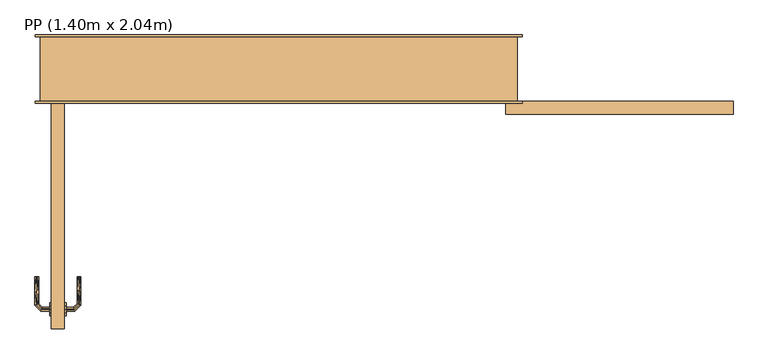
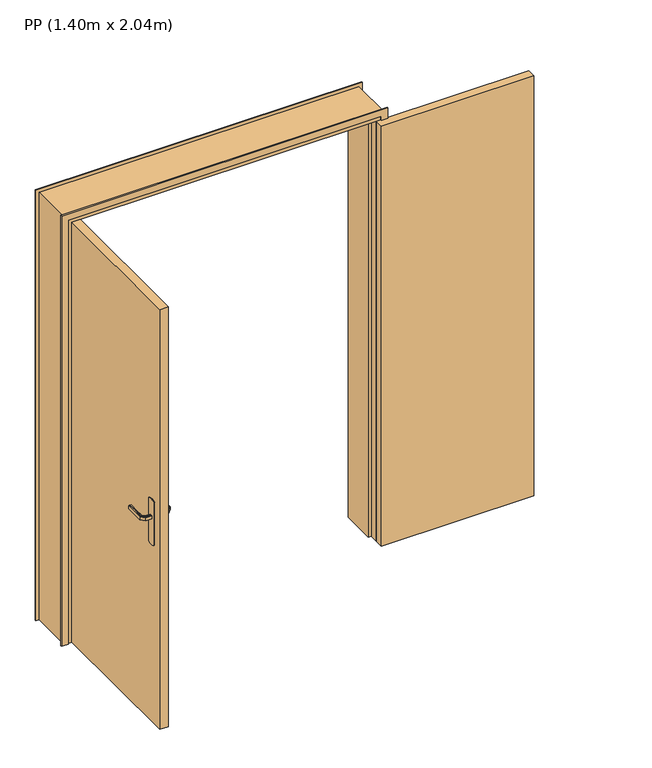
"""IFC4 building model written with IfcOpenShell, lengths in millimetres: door geometry, PP (1.40m x 2.04m)."""

import ifcopenshell
import ifcopenshell.guid

model = None  # the IFC model being written
_history = None  # IfcOwnerHistory: only IFC2X3 demands one
_inside = {}  # id of a spatial element -> (the spatial element, [elements in it])
_under = {}  # id of a project, library or spatial element -> (it, [spatial elements below it])
_declared = {}  # id of a project -> (the project, [libraries it declares])
_typed = {}  # id of a type object -> (the type object, [elements of that type])
_made_of = {}  # id of a material, layer set ... -> (it, [elements and type objects made of it])


def new_model(schema):
    """Start an empty IFC model of exactly this schema.

    Asked for "IFC4X3", IfcOpenShell would pick the latest addendum, in which some entities
    have other attributes; the version numbers below select the first issue.
    IFC2X3 requires an IfcOwnerHistory on every rooted entity: one is made here for all.
    """
    global model, _history
    if schema == "IFC4X3":
        model = ifcopenshell.file(schema_version=(4, 3, 0, 0))
    else:
        model = ifcopenshell.file(schema=schema)
    _inside.clear()
    _under.clear()
    _declared.clear()
    _typed.clear()
    _made_of.clear()
    _history = None
    if model.schema == "IFC2X3":
        org = make("IfcOrganization", Name="unknown")
        user = make(
            "IfcPersonAndOrganization",
            ThePerson=make("IfcPerson", FamilyName="unknown"),
            TheOrganization=org,
        )
        app = make(
            "IfcApplication",
            ApplicationDeveloper=org,
            Version="unknown",
            ApplicationFullName="unknown",
            ApplicationIdentifier="unknown",
        )
        _history = make(
            "IfcOwnerHistory",
            OwningUser=user,
            OwningApplication=app,
            ChangeAction="ADDED",
            CreationDate=0,
        )
    return model


def make(cls, **values):
    """One entity of the class cls with the attributes given. An attribute that is None is left unset."""
    return model.create_entity(
        cls, **{name: value for name, value in values.items() if value is not None}
    )


def rooted(cls, **values):
    """An entity with a GlobalId (a new one), such as an element, a storey or a relation."""
    return make(cls, GlobalId=ifcopenshell.guid.new(), OwnerHistory=_history, **values)


def si_unit(unit_type, name, prefix=None):
    """IfcSIUnit, for example si_unit("LENGTHUNIT", "METRE", prefix="MILLI")."""
    return make("IfcSIUnit", UnitType=unit_type, Prefix=prefix, Name=name)


def assignment(units):
    """IfcUnitAssignment: the units of a project."""
    return None if units is None else make("IfcUnitAssignment", Units=units)


def point(xyz):
    """IfcCartesianPoint."""
    return None if xyz is None else make("IfcCartesianPoint", Coordinates=xyz)


def direction(xyz):
    """IfcDirection."""
    return None if xyz is None else make("IfcDirection", DirectionRatios=xyz)


def frame(location, z_axis=None, x_axis=None):
    """IfcAxis2Placement3D, a coordinate frame: its origin and axes. An axis left out is left unset."""
    return make(
        "IfcAxis2Placement3D",
        Location=point(location),
        Axis=direction(z_axis),
        RefDirection=direction(x_axis),
    )


def origin():
    """The frame at (0, 0, 0) with its axes left unset."""
    return frame((0.0, 0.0, 0.0))


def origin_with_axes():
    """The frame at (0, 0, 0) with the z axis (0, 0, 1) and the x axis (1, 0, 0) written out."""
    return frame((0.0, 0.0, 0.0), z_axis=(0.0, 0.0, 1.0), x_axis=(1.0, 0.0, 0.0))


def place(relative_to, where):
    """IfcLocalPlacement: puts the frame where relative to a parent placement (None: the world)."""
    return make(
        "IfcLocalPlacement", PlacementRelTo=relative_to, RelativePlacement=where
    )


def context(
    kind, dimensions, precision=None, world=None, true_north=None, identifier=None
):
    """IfcGeometricRepresentationContext, for example the 3D "Model" context."""
    return make(
        "IfcGeometricRepresentationContext",
        ContextIdentifier=identifier,
        ContextType=kind,
        CoordinateSpaceDimension=dimensions,
        Precision=precision,
        WorldCoordinateSystem=world,
        TrueNorth=true_north,
    )


def project(units=None, contexts=None):
    """IfcProject with its units and contexts."""
    return rooted(
        "IfcProject",
        Name="project",
        RepresentationContexts=contexts,
        UnitsInContext=assignment(units),
    )


def spatial(cls, under=None, at=None, **own):
    """A site, building, storey or space (cls), placed at a placement, below another one or the project."""
    s = rooted(cls, ObjectPlacement=at, **own)
    if under is not None:
        _under.setdefault(under.id(), (under, []))[1].append(s)
    return s


def polyline(points):
    """IfcPolyline through the points."""
    return make("IfcPolyline", Points=[point(p) for p in points])


def outline(outer, holes=None, kind="AREA"):
    """IfcArbitraryClosedProfileDef: a profile drawn as a closed curve; with holes, ...WithVoids."""
    if holes is None:
        return make("IfcArbitraryClosedProfileDef", ProfileType=kind, OuterCurve=outer)
    return make(
        "IfcArbitraryProfileDefWithVoids",
        ProfileType=kind,
        OuterCurve=outer,
        InnerCurves=holes,
    )


def extrude(swept, where, along, depth):
    """IfcExtrudedAreaSolid: the profile swept, set in the frame where, extruded along a direction by depth."""
    return make(
        "IfcExtrudedAreaSolid",
        SweptArea=swept,
        Position=where,
        ExtrudedDirection=direction(along),
        Depth=depth,
    )


def faces_of(points, faces, orient=None, outer=None):
    """IfcFace entities. A face is a list of loops; a loop is a list of indices into points, from 0.

    orient and outer hold one flag for each loop. By default every Orientation is true, the
    first loop of a face is its IfcFaceOuterBound and the others are IfcFaceBound.
    """
    made = []
    for i, loops in enumerate(faces):
        bounds = []
        for j, loop in enumerate(loops):
            is_outer = j == 0 if outer is None else outer[i][j]
            bounds.append(
                make(
                    "IfcFaceOuterBound" if is_outer else "IfcFaceBound",
                    Bound=make("IfcPolyLoop", Polygon=[points[k] for k in loop]),
                    Orientation=True if orient is None else orient[i][j],
                )
            )
        made.append(make("IfcFace", Bounds=bounds))
    return made


def faceted_brep(points, faces, orient=None, outer=None, voids=None):
    """IfcFacetedBrep: a solid bounded by flat faces; with voids (closed shells), ...WithVoids."""
    shared = [point(p) for p in points]
    hull = make("IfcClosedShell", CfsFaces=faces_of(shared, faces, orient, outer))
    if voids is None:
        return make("IfcFacetedBrep", Outer=hull)
    return make(
        "IfcFacetedBrepWithVoids",
        Outer=hull,
        Voids=[
            make(cls, CfsFaces=faces_of(shared, fs, o, b)) for cls, fs, o, b in voids
        ],
    )


def shape(context_of_items, identifier, shape_type, items):
    """IfcShapeRepresentation: the items that make up one representation, for example the "Body"."""
    return make(
        "IfcShapeRepresentation",
        ContextOfItems=context_of_items,
        RepresentationIdentifier=identifier,
        RepresentationType=shape_type,
        Items=items,
    )


def source(mapping_origin, context_of_items, identifier, shape_type, items):
    """IfcRepresentationMap: a shape defined once, which mapped items show again and again."""
    return make(
        "IfcRepresentationMap",
        MappingOrigin=mapping_origin,
        MappedRepresentation=shape(context_of_items, identifier, shape_type, items),
    )


def transform(
    local_origin,
    x_axis=None,
    y_axis=None,
    z_axis=None,
    scale=None,
    scale2=None,
    scale3=None,
    uniform=True,
):
    """IfcCartesianTransformationOperator3D, or its non-uniform kind. x_axis, y_axis, z_axis: its Axis1, 2, 3."""
    if uniform:
        return make(
            "IfcCartesianTransformationOperator3D",
            Axis1=direction(x_axis),
            Axis2=direction(y_axis),
            LocalOrigin=point(local_origin),
            Scale=scale,
            Axis3=direction(z_axis),
        )
    return make(
        "IfcCartesianTransformationOperator3DnonUniform",
        Axis1=direction(x_axis),
        Axis2=direction(y_axis),
        LocalOrigin=point(local_origin),
        Scale=scale,
        Axis3=direction(z_axis),
        Scale2=scale2,
        Scale3=scale3,
    )


def mapped(mapping_source, mapping_target):
    """IfcMappedItem: shows the shape of a source again, moved by a transform."""
    return make(
        "IfcMappedItem", MappingSource=mapping_source, MappingTarget=mapping_target
    )


def made_of(thing, what):
    """Note that an element or type object is made of a material, layer set ...; save() writes the relation."""
    if what is not None:
        _made_of.setdefault(what.id(), (what, []))[1].append(thing)
    return thing


def element(
    cls,
    number,
    at=None,
    inside=None,
    cuts=None,
    type_object=None,
    material=None,
    context=None,
    identifier="Body",
    shape_type=None,
    held_by="IfcProductDefinitionShape",
    body=None,
    shapes=None,
    **own,
):
    """One element of the class cls, such as IfcWall. Its Tag is "e" and its number.

    at: its placement. inside: the storey or other place that contains it. cuts: it is an
    opening in that element (IfcRelVoidsElement). A single representation is given by context,
    identifier, shape_type and body (its items); several are given by shapes. held_by: the class
    of the entity that holds the representations. save() writes the other relations.
    """
    e = rooted(cls, Tag="e%d" % number, ObjectPlacement=at, **own)
    if body is not None:
        shapes = [shape(context, identifier, shape_type, body)]
    if shapes is not None:
        e.Representation = make(held_by, Representations=shapes)
    if inside is not None:
        _inside.setdefault(inside.id(), (inside, []))[1].append(e)
    if cuts is not None:
        rooted(
            "IfcRelVoidsElement", RelatingBuildingElement=cuts, RelatedOpeningElement=e
        )
    if type_object is not None:
        _typed.setdefault(type_object.id(), (type_object, []))[1].append(e)
    return made_of(e, material)


def aggregate(whole, parts):
    """IfcRelAggregates: a whole, such as a stair, and the parts it consists of."""
    return rooted("IfcRelAggregates", RelatingObject=whole, RelatedObjects=parts)


def save(model, path):
    """Write the relations noted so far, then the file.

    IfcRelAggregates (storeys below a building ...), IfcRelContainedInSpatialStructure (elements
    in a storey), IfcRelDefinesByType, IfcRelAssociatesMaterial and IfcRelDeclares: one each for
    every whole, place, type object, material and project.
    """
    for whole, parts in _under.values():
        aggregate(whole, parts)
    for where, things in _inside.values():
        rooted(
            "IfcRelContainedInSpatialStructure",
            RelatedElements=things,
            RelatingStructure=where,
        )
    for kind, things in _typed.values():
        rooted("IfcRelDefinesByType", RelatedObjects=things, RelatingType=kind)
    for what, things in _made_of.values():
        rooted("IfcRelAssociatesMaterial", RelatedObjects=things, RelatingMaterial=what)
    for by, libraries in _declared.values():
        rooted("IfcRelDeclares", RelatingContext=by, RelatedDefinitions=libraries)
    model.write(path)


def pp_1_40m_x_2_04m_01ffcd45(model_context):
    return source(origin(), model_context, "Body", "SolidModel", [
        extrude(outline(polyline([(-660.0, 870.0), (-660.0, 1080.0), (-650.3527618, 1083.9960169), (-640.0, 1085.3589838), (-629.6472382, 1083.9960169), (-620.0, 1080.0), (-620.0, 870.0), (-629.6472382, 866.0039831), (-640.0, 864.6410162), (-650.3527618, 866.0039831), (-660.0, 870.0)])), frame((100.0, 0.0, 0.0), z_axis=(1.0, 0.0, 0.0), x_axis=(0.0, 1.0, 0.0)), (0.0, 0.0, 1.0), 5.0),
        faceted_brep([(100.0, -637.9747013, 1007.7804408), (100.0, -642.0252987, 1007.7804408), (100.0, -646.0, 1007.0), (100.0, -646.0, 993.0), (100.0, -642.0252987, 992.2195592), (100.0, -637.9747013, 992.2195592), (100.0, -634.0, 993.0), (100.0, -634.0, 1007.0), (73.9954245, -642.0252987, 1007.7804408), (72.3490493, -646.0, 1007.0), (75.6732368, -637.9747013, 1007.7804408), (61.997138, -624.2986025, 1007.7804408), (57.9465407, -625.9764148, 1007.7804408), (77.319612, -634.0, 1007.0), (77.319612, -634.0, 993.0), (75.6732368, -637.9747013, 992.2195592), (73.9954245, -642.0252987, 992.2195592), (57.9465407, -625.9764148, 992.2195592), (61.997138, -624.2986025, 992.2195592), (72.3490493, -646.0, 993.0), (53.9718393, -627.62279, 1007.0), (65.9718393, -622.6522273, 1007.0), (65.9718393, -622.6522273, 993.0), (53.9718393, -627.62279, 993.0), (53.9718393, -539.9813594, 1007.0), (57.9465407, -539.9813594, 1007.7804408), (61.997138, -539.9813594, 1007.7804408), (65.9718393, -539.9813594, 1007.0), (65.9718393, -539.9813594, 993.0), (61.997138, -539.9813594, 992.2195592), (57.9465407, -539.9813594, 992.2195592), (53.9718393, -539.9813594, 993.0), (59.9718393, -582.1399809, 1007.8786868), (53.9718393, -587.6923028, 1007.0), (65.9718393, -581.3167933, 1007.0), (65.9718393, -581.3167933, 993.0), (59.9718392, -582.1399811, 992.1213132), (53.9718393, -587.6923104, 993.0)], [[[0, 1, 2, 3, 4, 5, 6, 7]], [[2, 1, 8, 9]], [[1, 0, 10, 11, 12, 8]], [[0, 7, 13, 10]], [[14, 13, 7, 6]], [[5, 15, 14, 6]], [[5, 4, 16, 17, 18, 15]], [[3, 19, 16, 4]], [[9, 19, 3, 2]], [[9, 8, 12, 20]], [[10, 13, 21, 11]], [[22, 21, 13, 14]], [[14, 15, 18, 22]], [[16, 19, 23, 17]], [[20, 23, 19, 9]], [[24, 25, 26, 27, 28, 29, 30, 31]], [[32, 25, 33]], [[33, 25, 24]], [[33, 20, 12]], [[11, 34, 32]], [[34, 11, 21]], [[27, 26, 34]], [[32, 26, 25]], [[32, 34, 26]], [[32, 33, 12]], [[11, 32, 12]], [[21, 22, 35, 28, 27, 34]], [[36, 29, 35]], [[30, 36, 37]], [[18, 35, 22]], [[29, 28, 35]], [[30, 37, 31]], [[37, 17, 23]], [[36, 17, 37]], [[36, 18, 17]], [[36, 35, 18]], [[29, 36, 30]], [[23, 20, 33, 24, 31, 37]]]),
        extrude(outline(polyline([(0.0, 1555.0), (2090.0, 1555.0), (2090.0, 55.0), (0.0, 55.0), (0.0, 85.0), (2060.0, 85.0), (2060.0, 1525.0), (0.0, 1525.0), (0.0, 1555.0)])), frame((0.0, -5.0, 0.0), z_axis=(0.0, 1.0, 0.0), x_axis=(0.0, 0.0, 1.0)), (0.0, 0.0, 1.0), 5.0),
        extrude(outline(polyline([(145.0, -700.0), (105.0, -700.0), (105.0, 0.0), (145.0, 0.0), (145.0, -700.0)])), origin_with_axes(), (0.0, 0.0, 1.0), 2040.0),
        extrude(outline(polyline([(-660.0, 870.0), (-660.0, 1080.0), (-650.3527618, 1083.9960169), (-640.0, 1085.3589838), (-629.6472382, 1083.9960169), (-620.0, 1080.0), (-620.0, 870.0), (-629.6472382, 866.0039831), (-640.0, 864.6410162), (-650.3527618, 866.0039831), (-660.0, 870.0)])), frame((145.0, 0.0, 0.0), z_axis=(1.0, 0.0, 0.0), x_axis=(0.0, 1.0, 0.0)), (0.0, 0.0, 1.0), 5.0),
        faceted_brep([(1540.0, 0.0, 0.0), (1505.0, 0.0, 0.0), (1505.0, 40.0, 0.0), (1490.0, 40.0, 0.0), (1490.0, 200.0, 0.0), (1540.0, 200.0, 0.0), (1540.0, 200.0, 2075.0), (1540.0, 0.0, 2075.0), (1490.0, 200.0, 2025.0), (120.0, 200.0, 2025.0), (120.0, 200.0, 0.0), (70.0, 200.0, 0.0), (70.0, 200.0, 2075.0), (1490.0, 40.0, 2025.0), (1505.0, 40.0, 2040.0), (105.0, 40.0, 2040.0), (105.0, 40.0, 0.0), (120.0, 40.0, 0.0), (120.0, 40.0, 2025.0), (1505.0, 0.0, 2040.0), (70.0, 0.0, 2075.0), (70.0, 0.0, 0.0), (105.0, 0.0, 0.0), (105.0, 0.0, 2040.0)], [[[0, 1, 2, 3, 4, 5]], [[5, 6, 7, 0]], [[4, 8, 9, 10, 11, 12, 6, 5]], [[3, 13, 8, 4]], [[2, 14, 15, 16, 17, 18, 13, 3]], [[1, 19, 14, 2]], [[0, 7, 20, 21, 22, 23, 19, 1]], [[12, 11, 21, 20]], [[21, 11, 10, 17, 16, 22]], [[18, 17, 10, 9]], [[23, 22, 16, 15]], [[6, 12, 20, 7]], [[13, 18, 9, 8]], [[19, 23, 15, 14]]]),
        extrude(outline(polyline([(2205.0, -40.0), (1505.0, -40.0), (1505.0, 0.0), (2205.0, 0.0), (2205.0, -40.0)])), origin_with_axes(), (0.0, 0.0, 1.0), 2040.0),
        faceted_brep([(150.0, -637.9747013, 992.2195592), (150.0, -642.0252987, 992.2195592), (150.0, -646.0, 993.0), (150.0, -646.0, 1007.0), (150.0, -642.0252987, 1007.7804408), (150.0, -637.9747013, 1007.7804408), (150.0, -634.0, 1007.0), (150.0, -634.0, 993.0), (172.4852045, -634.0, 1007.0), (172.4852045, -634.0, 993.0), (174.1315797, -637.9747013, 1007.7804408), (175.8093921, -642.0252987, 1007.7804408), (191.9957845, -625.8389062, 1007.7804408), (187.9451872, -624.1610938, 1007.7804408), (177.4557673, -646.0, 1007.0), (177.4557673, -646.0, 993.0), (175.8093921, -642.0252987, 992.2195592), (174.1315797, -637.9747013, 992.2195592), (187.9451872, -624.1610938, 992.2195592), (191.9957845, -625.8389062, 992.2195592), (183.9704859, -622.5147186, 1007.0), (183.9704859, -622.5147186, 993.0), (195.9704859, -627.4852814, 1007.0), (195.9704859, -627.4852814, 993.0), (187.9451872, -539.9542163, 1007.7804408), (191.9957845, -539.9542163, 1007.7804408), (195.9704859, -539.9542163, 1007.0), (195.9704859, -539.9542163, 993.0), (191.9957845, -539.9542163, 992.2195592), (187.9451872, -539.9542163, 992.2195592), (183.9704859, -539.9542163, 993.0), (183.9704859, -539.9542163, 1007.0), (183.9704859, -581.2344675, 1007.0), (183.9704859, -581.2344794, 993.0), (189.9704859, -582.0576551, 1007.8786868), (195.9704859, -587.5547942, 1007.0), (195.9704859, -587.5547957, 993.0), (189.9704858, -582.0576549, 992.1213132)], [[[0, 1, 2, 3, 4, 5, 6, 7]], [[8, 9, 7, 6]], [[5, 10, 8, 6]], [[5, 4, 11, 12, 13, 10]], [[3, 14, 11, 4]], [[14, 3, 2, 15]], [[2, 1, 16, 15]], [[1, 0, 17, 18, 19, 16]], [[0, 7, 9, 17]], [[20, 21, 9, 8]], [[8, 10, 13, 20]], [[14, 22, 12, 11]], [[23, 22, 14, 15]], [[15, 16, 19, 23]], [[17, 9, 21, 18]], [[24, 25, 26, 27, 28, 29, 30, 31]], [[21, 20, 32, 31, 30, 33]], [[34, 24, 32]], [[25, 34, 35]], [[13, 32, 20]], [[24, 31, 32]], [[25, 35, 26]], [[35, 12, 22]], [[34, 12, 35]], [[34, 13, 12]], [[34, 32, 13]], [[24, 34, 25]], [[22, 23, 36, 27, 26, 35]], [[37, 28, 36]], [[36, 28, 27]], [[36, 23, 19]], [[18, 33, 37]], [[33, 18, 21]], [[30, 29, 33]], [[37, 29, 28]], [[37, 33, 29]], [[37, 36, 19]], [[18, 37, 19]]]),
        extrude(outline(polyline([(0.0, 1555.0), (2090.0, 1555.0), (2090.0, 55.0), (0.0, 55.0), (0.0, 85.0), (2060.0, 85.0), (2060.0, 1525.0), (0.0, 1525.0), (0.0, 1555.0)])), frame((0.0, 200.0, 0.0), z_axis=(0.0, 1.0, 0.0), x_axis=(0.0, 0.0, 1.0)), (0.0, 0.0, 1.0), 5.0),
    ])


if __name__ == "__main__":
    model = new_model("IFC4")
    model_context = context("Model", 3, world=origin())
    ifc_project = project(units=[si_unit("LENGTHUNIT", "METRE", prefix="MILLI")], contexts=[model_context])
    site = spatial("IfcSite", under=ifc_project)
    building = spatial("IfcBuilding", under=site)
    placement = place(None, origin())
    pp_1_40m_x_2_04m_shape = pp_1_40m_x_2_04m_01ffcd45(model_context)
    element("IfcDoor", 1, ObjectType="PP (1.40m x 2.04m)", at=placement, inside=building, context=model_context, shape_type="MappedRepresentation", body=[
        mapped(pp_1_40m_x_2_04m_shape, transform((0.0, 0.0, 0.0), x_axis=(1.0, 0.0, 0.0), y_axis=(0.0, 1.0, 0.0), z_axis=(0.0, 0.0, 1.0))),
    ])
    save(model, "model.ifc")
